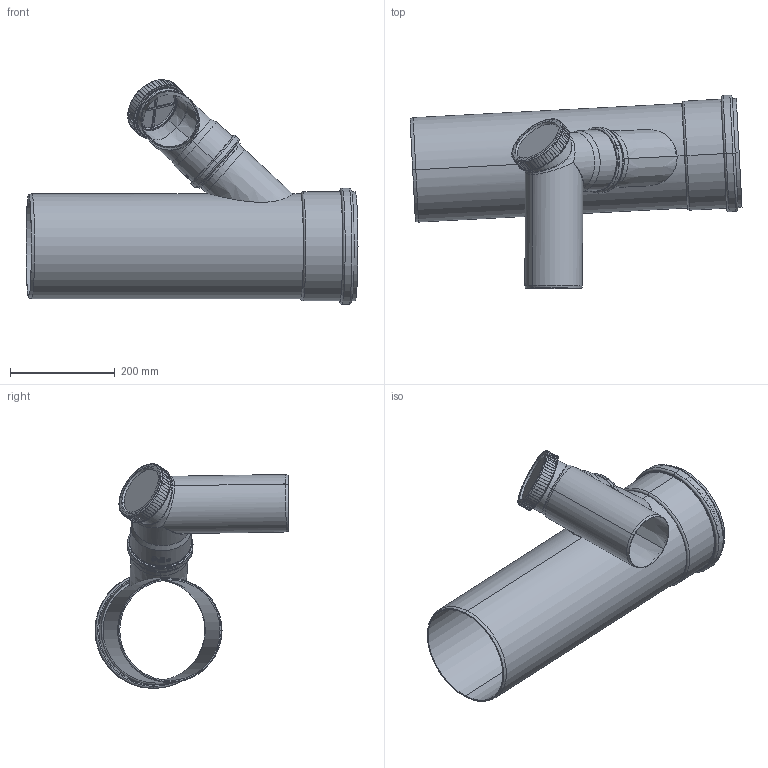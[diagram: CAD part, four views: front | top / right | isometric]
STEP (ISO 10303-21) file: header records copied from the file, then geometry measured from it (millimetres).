
FILE_DESCRIPTION((''),'2;1');
FILE_NAME('20-5511113205_ASM','2022-02-18T09:40:25',('ctgas'),('Centrotherm'),'CREO PARAMETRIC BY PTC INC, 2020281','CREO PARAMETRIC BY PTC INC, 2020281','');
FILE_SCHEMA(('AP242_MANAGED_MODEL_BASED_3D_ENGINEERING_MIM_LF { 1 0 10303 442 1 1 4 }'));
Length unit declared in the file: millimetre
Products named in the file (11): 20-1100006580_1000_AF0; 20-1100004790_AF0; 20-1100008878_ASM; 34015000; 20-1100008879_ASM; 20-1100000543; 20-0002073000; 20-0034033000; 20-0034013010; 20-1100002662_ASM; 20-5511113205_ASM
Assembly tree (10 placements, depth 4):
  20-5511113205_ASM
    20-1100008879_ASM
      20-1100008878_ASM
        20-1100006580_1000_AF0
        20-1100004790_AF0
      34015000
    20-1100002662_ASM
      20-1100000543
      20-0002073000
      20-0034033000
      20-0034013010
Bounding box: 634.75 x 370.71 x 430.12 mm (x, y, z)
Volume: 2232215.7 mm3; surface area: 1228989.6 mm2
Topology: 7 solids, 7 shells, 1032 faces, 2628 edges, 1650 vertices
Faces by surface type: plane 641, cylinder 168, cone 102, torus 76, bspline 34, extrusion 7, sphere 4
Entity records: 46299 total; most frequent: CARTESIAN_POINT 14153, ORIENTED_EDGE 5256, DIRECTION 4781, EDGE_CURVE 2628, PRESENTATION_STYLE_ASSIGNMENT 2333, STYLED_ITEM 2333, CURVE_STYLE 2296, AXIS2_PLACEMENT_3D 1779
